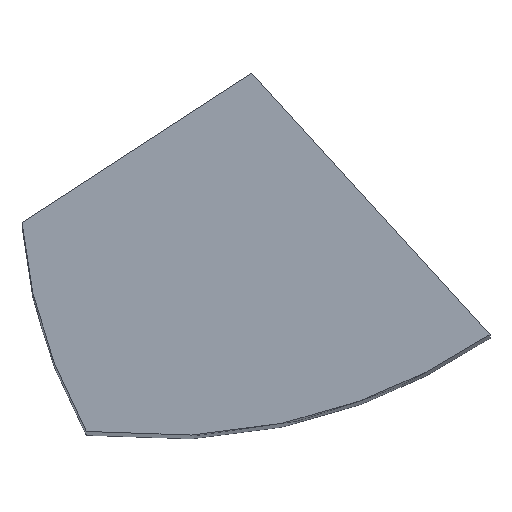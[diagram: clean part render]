
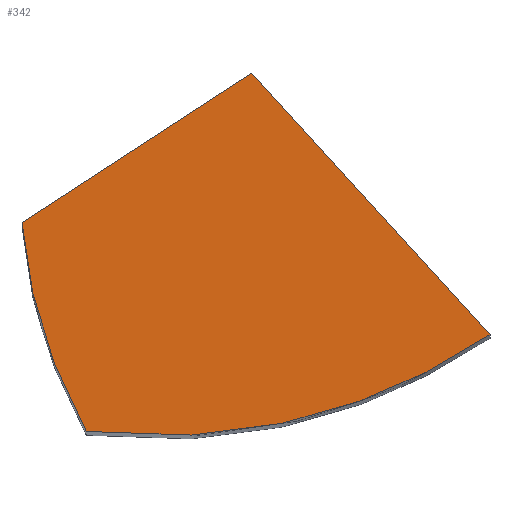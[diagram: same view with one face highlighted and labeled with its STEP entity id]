
A CAD part, top view. The second image highlights one B-rep face of the part: STEP entity #342.
In plain terms, the highlighted planar face has unit normal (0, 0, 1).
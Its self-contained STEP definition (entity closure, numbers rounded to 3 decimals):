
#24 = VERTEX_POINT('',#25);
#25 = CARTESIAN_POINT('',(21.95,-6.244,185.8));
#32 = PLANE('',#33);
#33 = AXIS2_PLACEMENT_3D('',#34,#35,#36);
#34 = CARTESIAN_POINT('',(21.95,-6.244,0.));
#35 = DIRECTION('',(-0.739,-0.673,0.));
#36 = DIRECTION('',(-0.673,0.739,0.));
#44 = SURFACE_OF_LINEAR_EXTRUSION('',#45,#49);
#45 = B_SPLINE_CURVE_WITH_KNOTS('',2,(#46,#47,#48),.UNSPECIFIED.,.F.,.F.
  ,(3,3),(0.,35.925),.PIECEWISE_BEZIER_KNOTS.);
#46 = CARTESIAN_POINT('',(-12.415,-14.49,0.));
#47 = CARTESIAN_POINT('',(6.32,-16.638,0.));
#48 = CARTESIAN_POINT('',(21.95,-6.244,0.));
#49 = VECTOR('',#50,1.);
#50 = DIRECTION('',(-0.,-0.,-1.));
#58 = EDGE_CURVE('',#24,#59,#61,.T.);
#59 = VERTEX_POINT('',#60);
#60 = CARTESIAN_POINT('',(1.675,16.027,185.8));
#61 = SURFACE_CURVE('',#62,(#66,#73),.PCURVE_S1.);
#62 = LINE('',#63,#64);
#63 = CARTESIAN_POINT('',(21.95,-6.244,185.8));
#64 = VECTOR('',#65,1.);
#65 = DIRECTION('',(-0.673,0.739,0.));
#66 = PCURVE('',#32,#67);
#67 = DEFINITIONAL_REPRESENTATION('',(#68),#72);
#68 = LINE('',#69,#70);
#69 = CARTESIAN_POINT('',(0.,-185.8));
#70 = VECTOR('',#71,1.);
#71 = DIRECTION('',(1.,0.));
#72 = ( GEOMETRIC_REPRESENTATION_CONTEXT(2) 
PARAMETRIC_REPRESENTATION_CONTEXT() REPRESENTATION_CONTEXT('2D SPACE',''
  ) );
#73 = PCURVE('',#74,#79);
#74 = PLANE('',#75);
#75 = AXIS2_PLACEMENT_3D('',#76,#77,#78);
#76 = CARTESIAN_POINT('',(0.536,-1.51,185.8));
#77 = DIRECTION('',(0.,0.,1.));
#78 = DIRECTION('',(1.,0.,-0.));
#79 = DEFINITIONAL_REPRESENTATION('',(#80),#84);
#80 = LINE('',#81,#82);
#81 = CARTESIAN_POINT('',(21.414,-4.734));
#82 = VECTOR('',#83,1.);
#83 = DIRECTION('',(-0.673,0.739));
#84 = ( GEOMETRIC_REPRESENTATION_CONTEXT(2) 
PARAMETRIC_REPRESENTATION_CONTEXT() REPRESENTATION_CONTEXT('2D SPACE',''
  ) );
#102 = PLANE('',#103);
#103 = AXIS2_PLACEMENT_3D('',#104,#105,#106);
#104 = CARTESIAN_POINT('',(1.675,16.027,0.));
#105 = DIRECTION('',(0.544,-0.839,0.));
#106 = DIRECTION('',(-0.839,-0.544,0.));
#144 = EDGE_CURVE('',#59,#145,#147,.T.);
#145 = VERTEX_POINT('',#146);
#146 = CARTESIAN_POINT('',(-17.905,3.318,185.8));
#147 = SURFACE_CURVE('',#148,(#152,#159),.PCURVE_S1.);
#148 = LINE('',#149,#150);
#149 = CARTESIAN_POINT('',(1.675,16.027,185.8));
#150 = VECTOR('',#151,1.);
#151 = DIRECTION('',(-0.839,-0.544,0.));
#152 = PCURVE('',#102,#153);
#153 = DEFINITIONAL_REPRESENTATION('',(#154),#158);
#154 = LINE('',#155,#156);
#155 = CARTESIAN_POINT('',(0.,-185.8));
#156 = VECTOR('',#157,1.);
#157 = DIRECTION('',(1.,0.));
#158 = ( GEOMETRIC_REPRESENTATION_CONTEXT(2) 
PARAMETRIC_REPRESENTATION_CONTEXT() REPRESENTATION_CONTEXT('2D SPACE',''
  ) );
#159 = PCURVE('',#74,#160);
#160 = DEFINITIONAL_REPRESENTATION('',(#161),#165);
#161 = LINE('',#162,#163);
#162 = CARTESIAN_POINT('',(1.139,17.536));
#163 = VECTOR('',#164,1.);
#164 = DIRECTION('',(-0.839,-0.544));
#165 = ( GEOMETRIC_REPRESENTATION_CONTEXT(2) 
PARAMETRIC_REPRESENTATION_CONTEXT() REPRESENTATION_CONTEXT('2D SPACE',''
  ) );
#183 = SURFACE_OF_LINEAR_EXTRUSION('',#184,#188);
#184 = B_SPLINE_CURVE_WITH_KNOTS('',2,(#185,#186,#187),.UNSPECIFIED.,.F.
  ,.F.,(3,3),(0.,1.),.PIECEWISE_BEZIER_KNOTS.);
#185 = CARTESIAN_POINT('',(-17.905,3.318,0.));
#186 = CARTESIAN_POINT('',(-17.185,-5.891,0.));
#187 = CARTESIAN_POINT('',(-12.415,-14.49,0.));
#188 = VECTOR('',#189,1.);
#189 = DIRECTION('',(-0.,-0.,-1.));
#222 = EDGE_CURVE('',#145,#223,#225,.T.);
#223 = VERTEX_POINT('',#224);
#224 = CARTESIAN_POINT('',(-12.415,-14.49,185.8));
#225 = SURFACE_CURVE('',#226,(#230,#237),.PCURVE_S1.);
#226 = B_SPLINE_CURVE_WITH_KNOTS('',2,(#227,#228,#229),.UNSPECIFIED.,.F.
  ,.F.,(3,3),(0.,1.),.PIECEWISE_BEZIER_KNOTS.);
#227 = CARTESIAN_POINT('',(-17.905,3.318,185.8));
#228 = CARTESIAN_POINT('',(-17.185,-5.891,185.8));
#229 = CARTESIAN_POINT('',(-12.415,-14.49,185.8));
#230 = PCURVE('',#183,#231);
#231 = DEFINITIONAL_REPRESENTATION('',(#232),#236);
#232 = LINE('',#233,#234);
#233 = CARTESIAN_POINT('',(0.,-185.8));
#234 = VECTOR('',#235,1.);
#235 = DIRECTION('',(1.,0.));
#236 = ( GEOMETRIC_REPRESENTATION_CONTEXT(2) 
PARAMETRIC_REPRESENTATION_CONTEXT() REPRESENTATION_CONTEXT('2D SPACE',''
  ) );
#237 = PCURVE('',#74,#238);
#238 = DEFINITIONAL_REPRESENTATION('',(#239),#243);
#239 = B_SPLINE_CURVE_WITH_KNOTS('',2,(#240,#241,#242),.UNSPECIFIED.,.F.
  ,.F.,(3,3),(0.,1.),.PIECEWISE_BEZIER_KNOTS.);
#240 = CARTESIAN_POINT('',(-18.441,4.828));
#241 = CARTESIAN_POINT('',(-17.721,-4.381));
#242 = CARTESIAN_POINT('',(-12.951,-12.98));
#243 = ( GEOMETRIC_REPRESENTATION_CONTEXT(2) 
PARAMETRIC_REPRESENTATION_CONTEXT() REPRESENTATION_CONTEXT('2D SPACE',''
  ) );
#293 = EDGE_CURVE('',#223,#24,#294,.T.);
#294 = SURFACE_CURVE('',#295,(#299,#306),.PCURVE_S1.);
#295 = B_SPLINE_CURVE_WITH_KNOTS('',2,(#296,#297,#298),.UNSPECIFIED.,.F.
  ,.F.,(3,3),(0.,35.925),.PIECEWISE_BEZIER_KNOTS.);
#296 = CARTESIAN_POINT('',(-12.415,-14.49,185.8));
#297 = CARTESIAN_POINT('',(6.32,-16.638,185.8));
#298 = CARTESIAN_POINT('',(21.95,-6.244,185.8));
#299 = PCURVE('',#44,#300);
#300 = DEFINITIONAL_REPRESENTATION('',(#301),#305);
#301 = LINE('',#302,#303);
#302 = CARTESIAN_POINT('',(0.,-185.8));
#303 = VECTOR('',#304,1.);
#304 = DIRECTION('',(1.,0.));
#305 = ( GEOMETRIC_REPRESENTATION_CONTEXT(2) 
PARAMETRIC_REPRESENTATION_CONTEXT() REPRESENTATION_CONTEXT('2D SPACE',''
  ) );
#306 = PCURVE('',#74,#307);
#307 = DEFINITIONAL_REPRESENTATION('',(#308),#312);
#308 = B_SPLINE_CURVE_WITH_KNOTS('',2,(#309,#310,#311),.UNSPECIFIED.,.F.
  ,.F.,(3,3),(0.,35.925),.PIECEWISE_BEZIER_KNOTS.);
#309 = CARTESIAN_POINT('',(-12.951,-12.98));
#310 = CARTESIAN_POINT('',(5.784,-15.128));
#311 = CARTESIAN_POINT('',(21.414,-4.734));
#312 = ( GEOMETRIC_REPRESENTATION_CONTEXT(2) 
PARAMETRIC_REPRESENTATION_CONTEXT() REPRESENTATION_CONTEXT('2D SPACE',''
  ) );
#342 = ADVANCED_FACE('',(#343),#74,.T.);
#343 = FACE_BOUND('',#344,.T.);
#344 = EDGE_LOOP('',(#345,#346,#347,#348));
#345 = ORIENTED_EDGE('',*,*,#58,.T.);
#346 = ORIENTED_EDGE('',*,*,#144,.T.);
#347 = ORIENTED_EDGE('',*,*,#222,.T.);
#348 = ORIENTED_EDGE('',*,*,#293,.T.);
